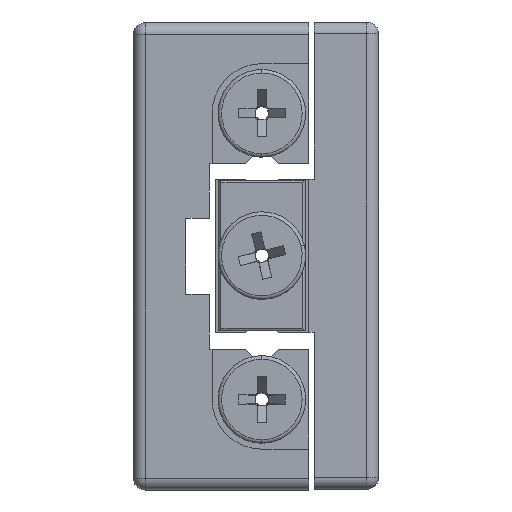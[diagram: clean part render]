
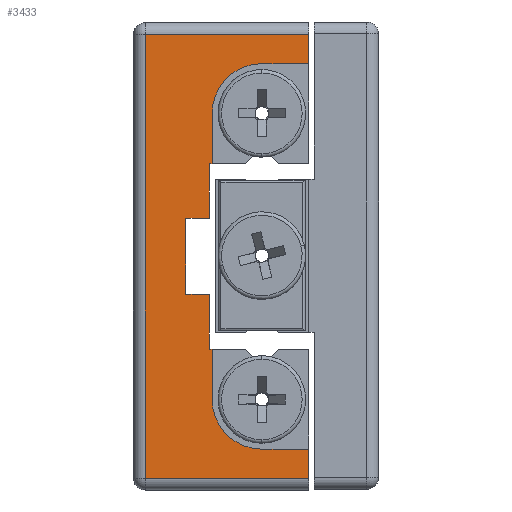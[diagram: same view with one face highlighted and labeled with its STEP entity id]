
A CAD part, left-side view. The second image highlights one B-rep face of the part: STEP entity #3433.
In plain terms, the highlighted planar face has unit normal (-1, 0, 0).
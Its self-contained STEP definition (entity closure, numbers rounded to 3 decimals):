
#115 = ORIENTED_EDGE ( 'NONE', *, *, #7753, .F. ) ;
#156 = DIRECTION ( 'NONE',  ( 0., -1., 0. ) ) ;
#318 = VECTOR ( 'NONE', #23335, 1000. ) ;
#392 = VERTEX_POINT ( 'NONE', #22276 ) ;
#621 = VERTEX_POINT ( 'NONE', #6325 ) ;
#653 = DIRECTION ( 'NONE',  ( 0., 0., 1. ) ) ;
#961 = ORIENTED_EDGE ( 'NONE', *, *, #21967, .T. ) ;
#1102 = CARTESIAN_POINT ( 'NONE',  ( -51.622, 6.381, 16.429 ) ) ;
#1221 = VECTOR ( 'NONE', #4627, 1000. ) ;
#1248 = DIRECTION ( 'NONE',  ( 0., 1., 0. ) ) ;
#1375 = LINE ( 'NONE', #12999, #15360 ) ;
#2079 = EDGE_CURVE ( 'NONE', #14438, #13049, #18510, .T. ) ;
#2166 = CARTESIAN_POINT ( 'NONE',  ( -51.622, 21.381, -20.071 ) ) ;
#2398 = VECTOR ( 'NONE', #4543, 1000. ) ;
#2708 = CARTESIAN_POINT ( 'NONE',  ( -51.622, 21.381, 18.929 ) ) ;
#2762 = DIRECTION ( 'NONE',  ( 0., 1., 0. ) ) ;
#3215 = CARTESIAN_POINT ( 'NONE',  ( -51.622, 6.381, -8.021 ) ) ;
#3299 = CARTESIAN_POINT ( 'NONE',  ( -51.622, 14.631, 12.179 ) ) ;
#3394 = EDGE_CURVE ( 'NONE', #13049, #10749, #21907, .T. ) ;
#3430 = EDGE_CURVE ( 'NONE', #9828, #12371, #20095, .T. ) ;
#3433 = ADVANCED_FACE ( 'NONE', ( #8771 ), #15762, .F. ) ;
#3541 = VECTOR ( 'NONE', #5404, 1000. ) ;
#4543 = DIRECTION ( 'NONE',  ( 0., 1., 0. ) ) ;
#4627 = DIRECTION ( 'NONE',  ( 0., 1., 0. ) ) ;
#4851 = VECTOR ( 'NONE', #1248, 1000. ) ;
#4889 = ORIENTED_EDGE ( 'NONE', *, *, #10748, .F. ) ;
#4931 = CARTESIAN_POINT ( 'NONE',  ( -51.622, 16.881, -3.321 ) ) ;
#5213 = DIRECTION ( 'NONE',  ( 0., -1., 0. ) ) ;
#5241 = DIRECTION ( 'NONE',  ( 0., -1., 0. ) ) ;
#5297 = ORIENTED_EDGE ( 'NONE', *, *, #19740, .F. ) ;
#5370 = CARTESIAN_POINT ( 'NONE',  ( -51.622, 10.381, -16.571 ) ) ;
#5404 = DIRECTION ( 'NONE',  ( 0., 0., -1. ) ) ;
#5502 = VERTEX_POINT ( 'NONE', #12392 ) ;
#5743 = EDGE_CURVE ( 'NONE', #19932, #23389, #6488, .T. ) ;
#5773 = DIRECTION ( 'NONE',  ( 0., 0., -1. ) ) ;
#5774 = DIRECTION ( 'NONE',  ( 0., 0., -1. ) ) ;
#6109 = ORIENTED_EDGE ( 'NONE', *, *, #18059, .T. ) ;
#6325 = CARTESIAN_POINT ( 'NONE',  ( -51.622, 14.631, -8.021 ) ) ;
#6488 = LINE ( 'NONE', #13385, #8184 ) ;
#7186 = CARTESIAN_POINT ( 'NONE',  ( -51.622, 6.381, -16.571 ) ) ;
#7240 = ORIENTED_EDGE ( 'NONE', *, *, #13445, .F. ) ;
#7342 = CARTESIAN_POINT ( 'NONE',  ( -51.622, 10.381, 12.179 ) ) ;
#7640 = VERTEX_POINT ( 'NONE', #20736 ) ;
#7753 = EDGE_CURVE ( 'NONE', #10749, #7640, #9112, .T. ) ;
#7758 = CARTESIAN_POINT ( 'NONE',  ( -51.622, 14.631, -12.321 ) ) ;
#7824 = DIRECTION ( 'NONE',  ( 0., 0., -1. ) ) ;
#7841 = ORIENTED_EDGE ( 'NONE', *, *, #3394, .F. ) ;
#8177 = ORIENTED_EDGE ( 'NONE', *, *, #18362, .T. ) ;
#8184 = VECTOR ( 'NONE', #22211, 1000. ) ;
#8496 = AXIS2_PLACEMENT_3D ( 'NONE', #7342, #16333, #20341 ) ;
#8573 = ORIENTED_EDGE ( 'NONE', *, *, #5743, .T. ) ;
#8761 = VECTOR ( 'NONE', #19711, 1000. ) ;
#8771 = FACE_OUTER_BOUND ( 'NONE', #9842, .T. ) ;
#8932 = CARTESIAN_POINT ( 'NONE',  ( -51.622, 10.381, 16.429 ) ) ;
#8955 = EDGE_CURVE ( 'NONE', #16796, #621, #16459, .T. ) ;
#9002 = CARTESIAN_POINT ( 'NONE',  ( -51.622, 10.381, 16.429 ) ) ;
#9112 = LINE ( 'NONE', #9160, #8761 ) ;
#9160 = CARTESIAN_POINT ( 'NONE',  ( -51.622, 14.631, 12.179 ) ) ;
#9345 = DIRECTION ( 'NONE',  ( 0., 0., 1. ) ) ;
#9583 = VERTEX_POINT ( 'NONE', #21276 ) ;
#9586 = VECTOR ( 'NONE', #5213, 1000. ) ;
#9605 = CARTESIAN_POINT ( 'NONE',  ( -51.622, 6.381, -19.071 ) ) ;
#9716 = VECTOR ( 'NONE', #2762, 1000. ) ;
#9750 = CARTESIAN_POINT ( 'NONE',  ( -51.622, 14.881, -8.021 ) ) ;
#9828 = VERTEX_POINT ( 'NONE', #21989 ) ;
#9842 = EDGE_LOOP ( 'NONE', ( #6109, #22127, #8573, #5297, #19218, #21546, #19036, #7240, #15919, #17899, #17338, #15407, #4889, #115, #7841, #10688, #961, #8177 ) ) ;
#9847 = EDGE_CURVE ( 'NONE', #621, #392, #12471, .T. ) ;
#10012 = VERTEX_POINT ( 'NONE', #17103 ) ;
#10199 = LINE ( 'NONE', #5370, #318 ) ;
#10227 = CARTESIAN_POINT ( 'NONE',  ( -51.622, 14.881, -3.321 ) ) ;
#10659 = EDGE_CURVE ( 'NONE', #16307, #14426, #18530, .T. ) ;
#10688 = ORIENTED_EDGE ( 'NONE', *, *, #2079, .F. ) ;
#10748 = EDGE_CURVE ( 'NONE', #7640, #11668, #20236, .T. ) ;
#10749 = VERTEX_POINT ( 'NONE', #3299 ) ;
#11167 = CARTESIAN_POINT ( 'NONE',  ( -51.622, 6.381, -20.071 ) ) ;
#11630 = LINE ( 'NONE', #16101, #3541 ) ;
#11668 = VERTEX_POINT ( 'NONE', #23011 ) ;
#11671 = AXIS2_PLACEMENT_3D ( 'NONE', #22308, #11801, #653 ) ;
#11734 = LINE ( 'NONE', #2708, #1221 ) ;
#11801 = DIRECTION ( 'NONE',  ( -1., 0., 0. ) ) ;
#11869 = LINE ( 'NONE', #11167, #15877 ) ;
#11984 = EDGE_CURVE ( 'NONE', #14426, #9828, #19618, .T. ) ;
#12259 = DIRECTION ( 'NONE',  ( 0., 0., -1. ) ) ;
#12283 = DIRECTION ( 'NONE',  ( 0., 0., -1. ) ) ;
#12371 = VERTEX_POINT ( 'NONE', #10227 ) ;
#12392 = CARTESIAN_POINT ( 'NONE',  ( -51.622, 10.381, -16.571 ) ) ;
#12471 = LINE ( 'NONE', #7758, #12729 ) ;
#12729 = VECTOR ( 'NONE', #7824, 1000. ) ;
#12999 = CARTESIAN_POINT ( 'NONE',  ( -51.622, 21.381, -19.071 ) ) ;
#13049 = VERTEX_POINT ( 'NONE', #8932 ) ;
#13385 = CARTESIAN_POINT ( 'NONE',  ( -51.622, 6.381, -20.071 ) ) ;
#13392 = AXIS2_PLACEMENT_3D ( 'NONE', #2166, #14439, #5773 ) ;
#13445 = EDGE_CURVE ( 'NONE', #12371, #16796, #19365, .T. ) ;
#14011 = CARTESIAN_POINT ( 'NONE',  ( -51.622, 14.881, -8.021 ) ) ;
#14019 = EDGE_CURVE ( 'NONE', #11668, #16307, #22371, .T. ) ;
#14426 = VERTEX_POINT ( 'NONE', #19180 ) ;
#14438 = VERTEX_POINT ( 'NONE', #1102 ) ;
#14439 = DIRECTION ( 'NONE',  ( 1., 0., 0. ) ) ;
#14761 = CARTESIAN_POINT ( 'NONE',  ( -51.622, 14.881, 3.179 ) ) ;
#15360 = VECTOR ( 'NONE', #156, 1000. ) ;
#15407 = ORIENTED_EDGE ( 'NONE', *, *, #14019, .F. ) ;
#15762 = PLANE ( 'NONE',  #13392 ) ;
#15877 = VECTOR ( 'NONE', #9345, 1000. ) ;
#15919 = ORIENTED_EDGE ( 'NONE', *, *, #3430, .F. ) ;
#16101 = CARTESIAN_POINT ( 'NONE',  ( -51.622, 20.381, -20.071 ) ) ;
#16307 = VERTEX_POINT ( 'NONE', #20022 ) ;
#16333 = DIRECTION ( 'NONE',  ( -1., 0., 0. ) ) ;
#16459 = LINE ( 'NONE', #3215, #9586 ) ;
#16796 = VERTEX_POINT ( 'NONE', #9750 ) ;
#17103 = CARTESIAN_POINT ( 'NONE',  ( -51.622, 20.381, 18.929 ) ) ;
#17310 = VECTOR ( 'NONE', #5241, 1000. ) ;
#17338 = ORIENTED_EDGE ( 'NONE', *, *, #10659, .F. ) ;
#17782 = CARTESIAN_POINT ( 'NONE',  ( -51.622, 14.881, -3.321 ) ) ;
#17899 = ORIENTED_EDGE ( 'NONE', *, *, #11984, .F. ) ;
#18059 = EDGE_CURVE ( 'NONE', #10012, #9583, #11630, .T. ) ;
#18362 = EDGE_CURVE ( 'NONE', #20535, #10012, #11734, .T. ) ;
#18510 = LINE ( 'NONE', #9002, #2398 ) ;
#18530 = LINE ( 'NONE', #21051, #4851 ) ;
#19036 = ORIENTED_EDGE ( 'NONE', *, *, #8955, .F. ) ;
#19180 = CARTESIAN_POINT ( 'NONE',  ( -51.622, 16.881, 3.179 ) ) ;
#19218 = ORIENTED_EDGE ( 'NONE', *, *, #20009, .F. ) ;
#19365 = LINE ( 'NONE', #14011, #21062 ) ;
#19618 = LINE ( 'NONE', #4931, #19684 ) ;
#19684 = VECTOR ( 'NONE', #12259, 1000. ) ;
#19711 = DIRECTION ( 'NONE',  ( 0., 0., -1. ) ) ;
#19740 = EDGE_CURVE ( 'NONE', #5502, #23389, #10199, .T. ) ;
#19932 = VERTEX_POINT ( 'NONE', #9605 ) ;
#20009 = EDGE_CURVE ( 'NONE', #392, #5502, #20351, .T. ) ;
#20022 = CARTESIAN_POINT ( 'NONE',  ( -51.622, 14.881, 3.179 ) ) ;
#20095 = LINE ( 'NONE', #17782, #17310 ) ;
#20236 = LINE ( 'NONE', #22565, #9716 ) ;
#20341 = DIRECTION ( 'NONE',  ( 0., 0., -1. ) ) ;
#20351 = CIRCLE ( 'NONE', #11671, 4.25 ) ;
#20424 = CARTESIAN_POINT ( 'NONE',  ( -51.622, 6.381, 18.929 ) ) ;
#20535 = VERTEX_POINT ( 'NONE', #20424 ) ;
#20736 = CARTESIAN_POINT ( 'NONE',  ( -51.622, 14.631, 7.879 ) ) ;
#21051 = CARTESIAN_POINT ( 'NONE',  ( -51.622, 16.881, 3.179 ) ) ;
#21062 = VECTOR ( 'NONE', #12283, 1000. ) ;
#21276 = CARTESIAN_POINT ( 'NONE',  ( -51.622, 20.381, -19.071 ) ) ;
#21546 = ORIENTED_EDGE ( 'NONE', *, *, #9847, .F. ) ;
#21907 = CIRCLE ( 'NONE', #8496, 4.25 ) ;
#21967 = EDGE_CURVE ( 'NONE', #14438, #20535, #11869, .T. ) ;
#21989 = CARTESIAN_POINT ( 'NONE',  ( -51.622, 16.881, -3.321 ) ) ;
#21995 = EDGE_CURVE ( 'NONE', #9583, #19932, #1375, .T. ) ;
#22127 = ORIENTED_EDGE ( 'NONE', *, *, #21995, .T. ) ;
#22211 = DIRECTION ( 'NONE',  ( 0., 0., 1. ) ) ;
#22276 = CARTESIAN_POINT ( 'NONE',  ( -51.622, 14.631, -12.321 ) ) ;
#22308 = CARTESIAN_POINT ( 'NONE',  ( -51.622, 10.381, -12.321 ) ) ;
#22345 = VECTOR ( 'NONE', #5774, 1000. ) ;
#22371 = LINE ( 'NONE', #14761, #22345 ) ;
#22565 = CARTESIAN_POINT ( 'NONE',  ( -51.622, 14.881, 7.879 ) ) ;
#23011 = CARTESIAN_POINT ( 'NONE',  ( -51.622, 14.881, 7.879 ) ) ;
#23335 = DIRECTION ( 'NONE',  ( 0., -1., 0. ) ) ;
#23389 = VERTEX_POINT ( 'NONE', #7186 ) ;
